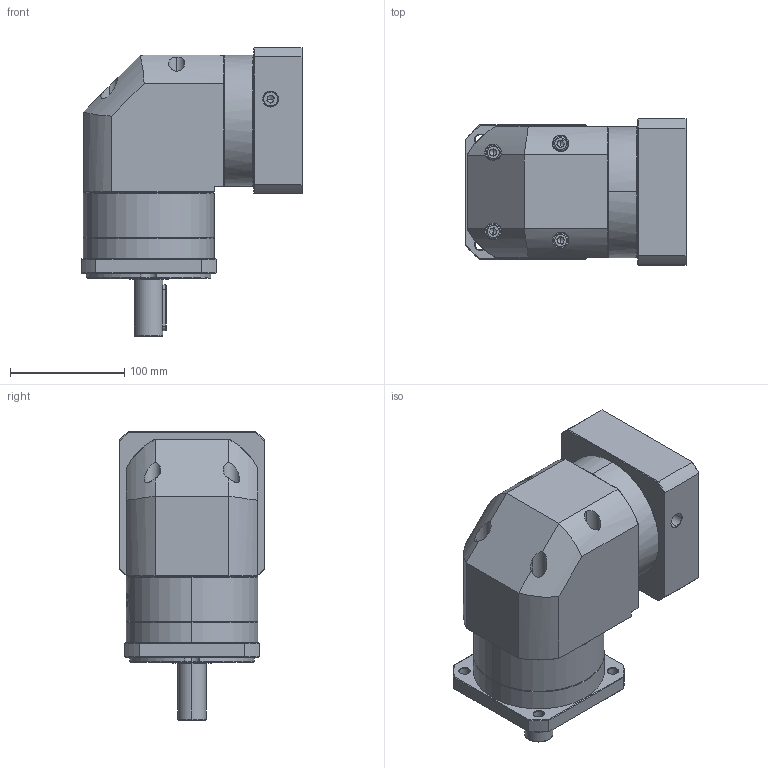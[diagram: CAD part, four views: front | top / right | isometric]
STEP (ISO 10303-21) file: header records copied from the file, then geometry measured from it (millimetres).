
FILE_DESCRIPTION (( 'STEP AP214' ), '1' );
FILE_NAME ('ZFR120A-D25-L1-P2-24-110-145-M8.step', '2023-08-27T08:01:59', ( '' ), ( '' ), 'SwSTEP 2.0', 'SolidWorks 2016', '' );
FILE_SCHEMA (( 'AUTOMOTIVE_DESIGN' ));
Length unit declared in the file: millimetre
Products named in the file (1): ZFR120A-D25-L1-P2-24-110-145-M8
Bounding box: 193.9 x 128 x 253 mm (x, y, z)
Volume: 2975155.5 mm3; surface area: 251016.8 mm2
Topology: 6 solids, 6 shells, 2265 faces, 5981 edges, 3821 vertices
Faces by surface type: plane 1061, cylinder 434, bspline 424, cone 338, torus 8
Entity records: 124128 total; most frequent: CARTESIAN_POINT 48694, ORIENTED_EDGE 11902, DIRECTION 8632, EDGE_CURVE 5951, VERTEX_POINT 3821, VECTOR 3160, LINE 3160, AXIS2_PLACEMENT_3D 2736
